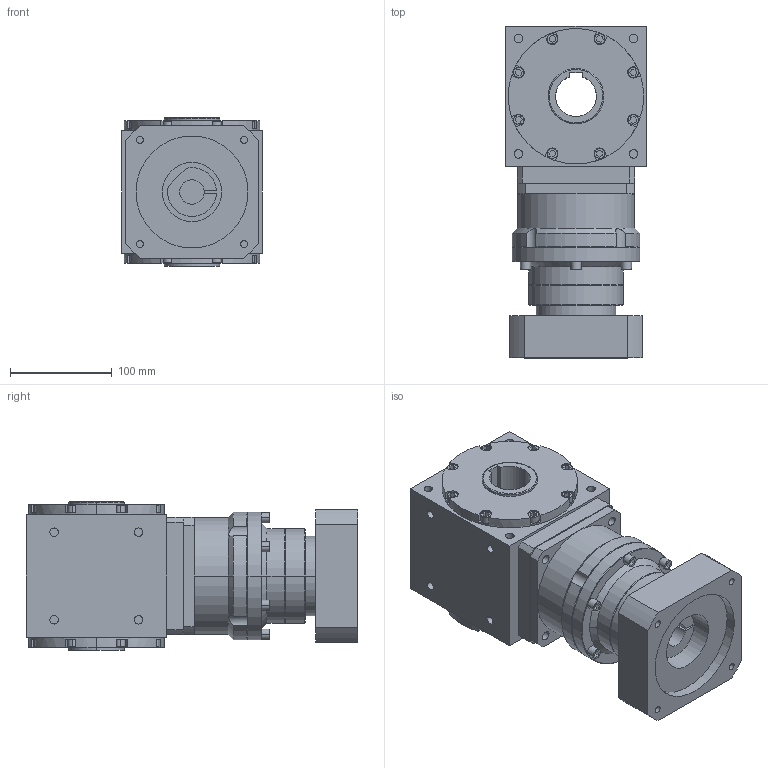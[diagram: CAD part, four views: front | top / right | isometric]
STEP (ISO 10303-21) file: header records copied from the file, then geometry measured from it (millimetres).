
FILE_DESCRIPTION (( 'STEP AP203' ), '1' );
FILE_NAME ('AAW135AS-L2-CR 22-110-145-M8.STEP', '2024-12-14T06:35:17', ( '' ), ( '' ), 'SwSTEP 2.0', 'SolidWorks 2021', '' );
FILE_SCHEMA (( 'CONFIG_CONTROL_DESIGN' ));
Length unit declared in the file: millimetre
Products named in the file (3): AAW135AS-L2-CR 22-110-145-M8; AAW135AS-CR; VRB-115-L2-S2-P1 24-110-145-M8
Assembly tree (2 placements, depth 2):
  AAW135AS-L2-CR 22-110-145-M8
    AAW135AS-CR
    VRB-115-L2-S2-P1 24-110-145-M8
Bounding box: 138 x 326 x 146 mm (x, y, z)
Volume: 4484988.2 mm3; surface area: 301561.7 mm2
Topology: 2 solids, 2 shells, 534 faces, 1293 edges, 840 vertices
Faces by surface type: plane 311, cylinder 185, cone 28, bspline 10
Entity records: 16457 total; most frequent: CARTESIAN_POINT 3299, DIRECTION 2776, ORIENTED_EDGE 2582, EDGE_CURVE 1291, AXIS2_PLACEMENT_3D 991, VERTEX_POINT 840, VECTOR 794, LINE 794
